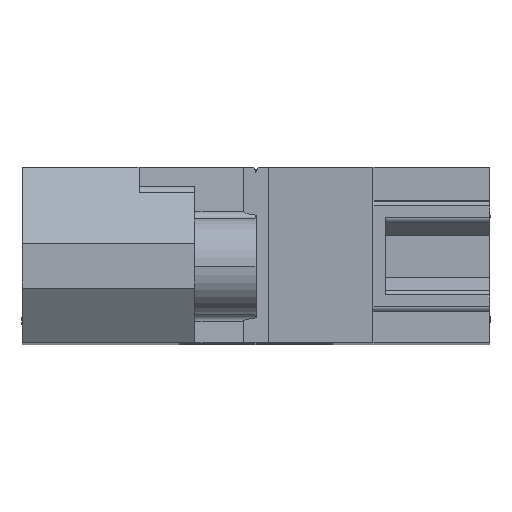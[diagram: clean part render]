
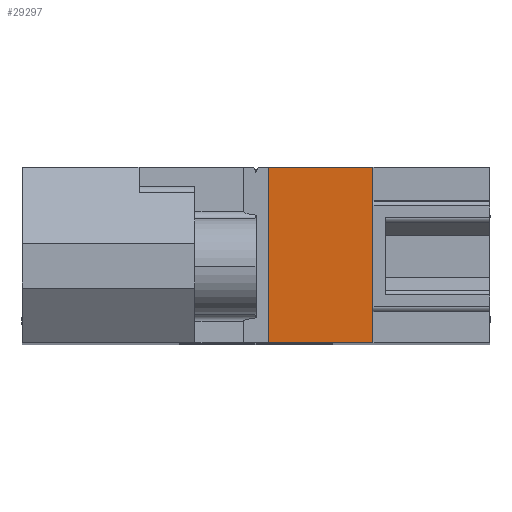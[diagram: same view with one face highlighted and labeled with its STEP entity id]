
A CAD part, top view. The second image highlights one B-rep face of the part: STEP entity #29297.
In plain terms, the highlighted planar face has unit normal (-0.073, 0, 0.997).
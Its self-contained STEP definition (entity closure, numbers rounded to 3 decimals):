
#3325 = VERTEX_POINT ( 'NONE', #32679 ) ;
#4329 = CARTESIAN_POINT ( 'NONE',  ( -8.7, 6.9, -5.15 ) ) ;
#4906 = CARTESIAN_POINT ( 'NONE',  ( -4.6, 6.9, -4.85 ) ) ;
#6371 = VERTEX_POINT ( 'NONE', #28227 ) ;
#10343 = VERTEX_POINT ( 'NONE', #49433 ) ;
#11755 = LINE ( 'NONE', #56449, #36674 ) ;
#12351 = AXIS2_PLACEMENT_3D ( 'NONE', #62014, #42807, #22572 ) ;
#15292 = LINE ( 'NONE', #36236, #22277 ) ;
#16170 = VECTOR ( 'NONE', #44705, 1000. ) ;
#19014 = ORIENTED_EDGE ( 'NONE', *, *, #32945, .T. ) ;
#20190 = ORIENTED_EDGE ( 'NONE', *, *, #58336, .F. ) ;
#22277 = VECTOR ( 'NONE', #40583, 1000. ) ;
#22470 = ORIENTED_EDGE ( 'NONE', *, *, #47283, .T. ) ;
#22572 = DIRECTION ( 'NONE',  ( 0.997, 0., 0.073 ) ) ;
#23633 = EDGE_CURVE ( 'NONE', #28001, #10343, #11755, .T. ) ;
#25198 = FACE_OUTER_BOUND ( 'NONE', #37419, .T. ) ;
#27400 = PLANE ( 'NONE',  #12351 ) ;
#28001 = VERTEX_POINT ( 'NONE', #55640 ) ;
#28109 = EDGE_CURVE ( 'NONE', #28501, #6371, #58677, .T. ) ;
#28227 = CARTESIAN_POINT ( 'NONE',  ( -4.6, 5.15, -4.85 ) ) ;
#28501 = VERTEX_POINT ( 'NONE', #50288 ) ;
#29297 = ADVANCED_FACE ( 'NONE', ( #25198 ), #27400, .T. ) ;
#32679 = CARTESIAN_POINT ( 'NONE',  ( -4.6, 0., -4.85 ) ) ;
#32945 = EDGE_CURVE ( 'NONE', #39028, #3325, #56930, .T. ) ;
#33473 = DIRECTION ( 'NONE',  ( 0., -1., 0. ) ) ;
#36236 = CARTESIAN_POINT ( 'NONE',  ( -4.6, 6.9, -4.85 ) ) ;
#36674 = VECTOR ( 'NONE', #46493, 1000. ) ;
#37082 = CARTESIAN_POINT ( 'NONE',  ( -4.6, 3.4, -4.85 ) ) ;
#37419 = EDGE_LOOP ( 'NONE', ( #22470, #19014, #20190, #46747, #37525, #55394 ) ) ;
#37525 = ORIENTED_EDGE ( 'NONE', *, *, #60450, .F. ) ;
#39028 = VERTEX_POINT ( 'NONE', #58712 ) ;
#40583 = DIRECTION ( 'NONE',  ( 0., -1., 0. ) ) ;
#42807 = DIRECTION ( 'NONE',  ( -0.073, 0., 0.997 ) ) ;
#44613 = DIRECTION ( 'NONE',  ( 0.997, 0., 0.073 ) ) ;
#44705 = DIRECTION ( 'NONE',  ( 0., -1., 0. ) ) ;
#45706 = LINE ( 'NONE', #4329, #50389 ) ;
#46493 = DIRECTION ( 'NONE',  ( 0.997, 0., 0.073 ) ) ;
#46747 = ORIENTED_EDGE ( 'NONE', *, *, #28109, .T. ) ;
#47283 = EDGE_CURVE ( 'NONE', #28001, #39028, #45706, .T. ) ;
#49433 = CARTESIAN_POINT ( 'NONE',  ( -4.6, 6.9, -4.85 ) ) ;
#50288 = CARTESIAN_POINT ( 'NONE',  ( -4.6, 1.65, -4.85 ) ) ;
#50389 = VECTOR ( 'NONE', #33473, 1000. ) ;
#52714 = DIRECTION ( 'NONE',  ( 0., 1., 0. ) ) ;
#55394 = ORIENTED_EDGE ( 'NONE', *, *, #23633, .F. ) ;
#55640 = CARTESIAN_POINT ( 'NONE',  ( -8.7, 6.9, -5.15 ) ) ;
#56449 = CARTESIAN_POINT ( 'NONE',  ( -8.7, 6.9, -5.15 ) ) ;
#56930 = LINE ( 'NONE', #59522, #60804 ) ;
#57985 = VECTOR ( 'NONE', #52714, 1000. ) ;
#58336 = EDGE_CURVE ( 'NONE', #28501, #3325, #15292, .T. ) ;
#58677 = LINE ( 'NONE', #37082, #57985 ) ;
#58712 = CARTESIAN_POINT ( 'NONE',  ( -8.7, 0., -5.15 ) ) ;
#59522 = CARTESIAN_POINT ( 'NONE',  ( -8.7, 0., -5.15 ) ) ;
#59707 = LINE ( 'NONE', #4906, #16170 ) ;
#60450 = EDGE_CURVE ( 'NONE', #10343, #6371, #59707, .T. ) ;
#60804 = VECTOR ( 'NONE', #44613, 1000. ) ;
#62014 = CARTESIAN_POINT ( 'NONE',  ( -8.7, 6.9, -5.15 ) ) ;
